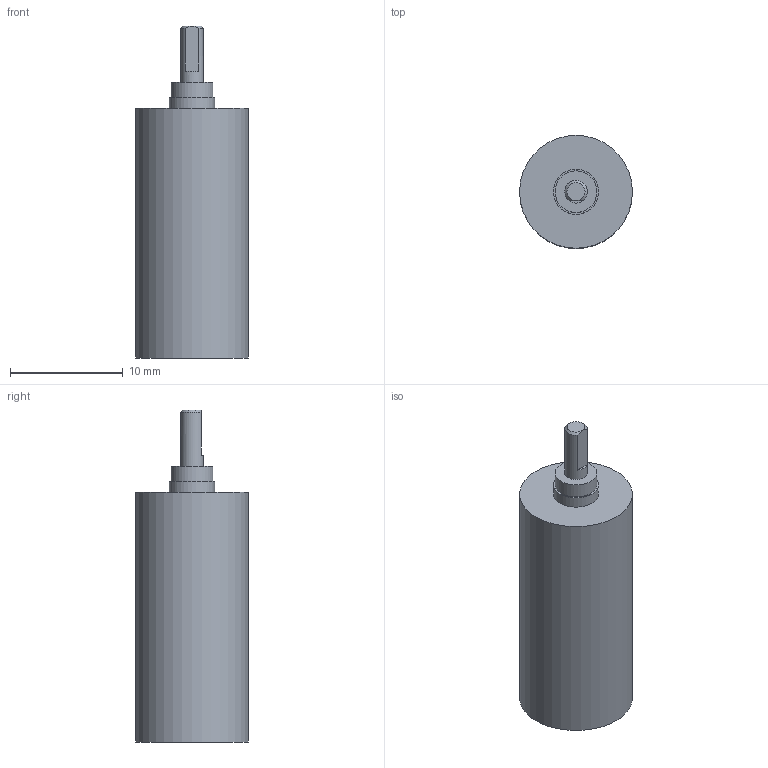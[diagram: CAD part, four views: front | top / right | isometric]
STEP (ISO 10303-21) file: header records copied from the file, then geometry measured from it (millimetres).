
FILE_DESCRIPTION(/* description */ (''),/* implementation_level */ '2;1');
FILE_NAME(/* name */ '10-1_5.stp',/* time_stamp */ '2016-08-24T08:22:00+02:00',/* author */ ('DR. FRITZ FAULHABER GmbH & Co. KG'),/* organization */ ('DR. FRITZ FAULHABER GmbH & Co. KG'),/* preprocessor_version */ 'ST-DEVELOPER v16',/* originating_system */ 'SIEMENS PLM Software NX 10.0',/* authorisation */ '');
FILE_SCHEMA (('AUTOMOTIVE_DESIGN { 1 0 10303 214 3 1 1 1 }'));
Length unit declared in the file: millimetre
Products named in the file (1): H00000411_A
Bounding box: 10 x 10 x 29.4 mm (x, y, z)
Volume: 1690.5 mm3; surface area: 979.2 mm2
Topology: 1 solids, 1 shells, 20 faces, 36 edges, 24 vertices
Faces by surface type: plane 10, cylinder 8, cone 2
Full cylindrical faces by diameter (mm): 2 x1, 3.12 x1, 3.32 x1, 3.7 x1, 4 x1, 4.959 x1, 6 x1, 10 x1
Entity records: 452 total; most frequent: DIRECTION 81, CARTESIAN_POINT 79, ORIENTED_EDGE 46, AXIS2_PLACEMENT_3D 39, EDGE_LOOP 35, FACE_BOUND 30, EDGE_CURVE 23, ADVANCED_FACE 20
